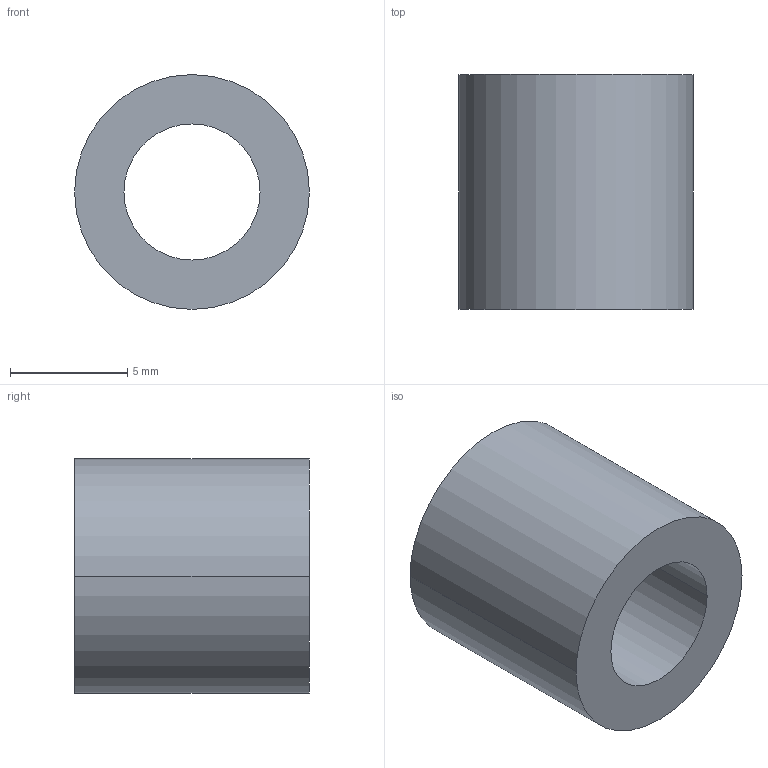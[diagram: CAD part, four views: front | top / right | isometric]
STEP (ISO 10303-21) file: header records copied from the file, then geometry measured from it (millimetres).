
FILE_DESCRIPTION (( 'STEP AP203' ), '1' );
FILE_NAME ('30800.WPP10D5.8.step', '2019-01-23T22:23:48', ( '' ), ( '' ), 'SwSTEP 2.0', 'SolidWorks 2017', '' );
FILE_SCHEMA (( 'CONFIG_CONTROL_DESIGN' ));
Length unit declared in the file: millimetre
Products named in the file (1): 30800.WPP10D5.8
Bounding box: 10 x 10 x 10 mm (x, y, z)
Volume: 511.4 mm3; surface area: 589.9 mm2
Topology: 1 solids, 1 shells, 8 faces, 16 edges, 10 vertices
Faces by surface type: cylinder 4, torus 2, plane 2
Entity records: 297 total; most frequent: DIRECTION 46, CARTESIAN_POINT 35, ORIENTED_EDGE 32, AXIS2_PLACEMENT_3D 21, EDGE_CURVE 16, CIRCLE 12, EDGE_LOOP 10, VERTEX_POINT 10
